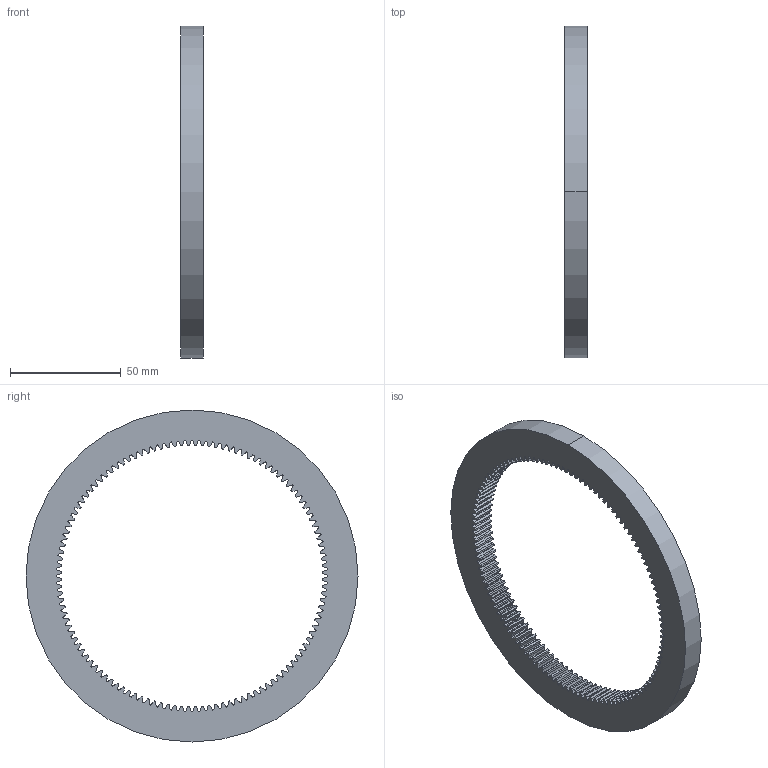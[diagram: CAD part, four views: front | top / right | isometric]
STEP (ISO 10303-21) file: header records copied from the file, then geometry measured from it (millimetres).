
FILE_DESCRIPTION((''),'2;1');
FILE_NAME('49161','2012-09-20T',('carefree'),(''),'PRO/ENGINEER BY PARAMETRIC TECHNOLOGY CORPORATION, 2005030','PRO/ENGINEER BY PARAMETRIC TECHNOLOGY CORPORATION, 2005030','');
FILE_SCHEMA(('CONFIG_CONTROL_DESIGN'));
Length unit declared in the file: millimetre
Products named in the file (1): 49161
Bounding box: 10 x 150 x 150 mm (x, y, z)
Volume: 63302.9 mm3; surface area: 24876.5 mm2
Topology: 1 solids, 1 shells, 724 faces, 2166 edges, 1444 vertices
Faces by surface type: plane 242, cylinder 242, extrusion 240
Entity records: 29056 total; most frequent: CARTESIAN_POINT 9974, ORIENTED_EDGE 4332, DIRECTION 3378, EDGE_CURVE 2166, VERTEX_POINT 1444, VECTOR 1442, LINE 1202, AXIS2_PLACEMENT_3D 968
